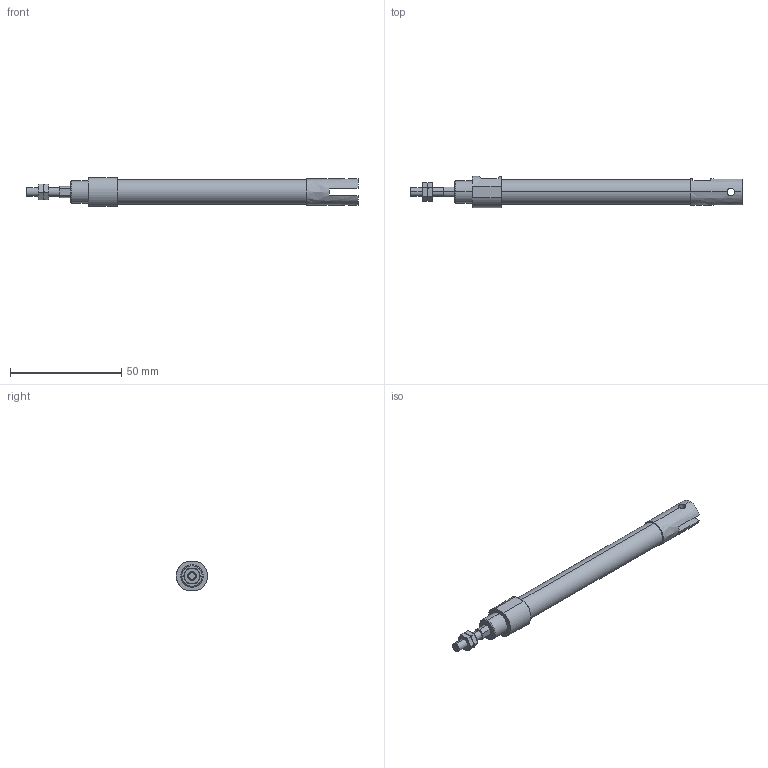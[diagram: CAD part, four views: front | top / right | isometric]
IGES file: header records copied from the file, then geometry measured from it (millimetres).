
Start section: SolidWorks IGES file using analytic representation for surfaces
Global section: file name: C:\Users\Toshiba\Desktop\ZGU2-10-60-W.IGS; native system: SolidWorks 2014; preprocessor: SolidWorks 2014; author: Toshiba; date: 160331.085546; units: millimetre
Bounding box: 149 x 14 x 13 mm (x, y, z)
Surface area: 5992.3 mm2 (no closed solid volume)
Topology: 0 solids, 0 shells, 94 faces, 1442 edges, 1438 vertices
Faces by surface type: bspline 61, revolution 33
